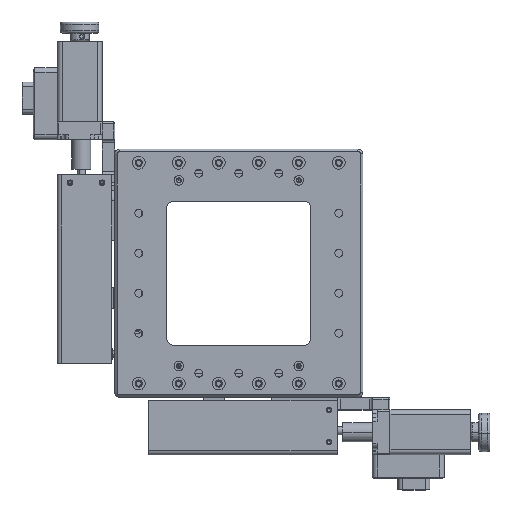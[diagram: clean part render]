
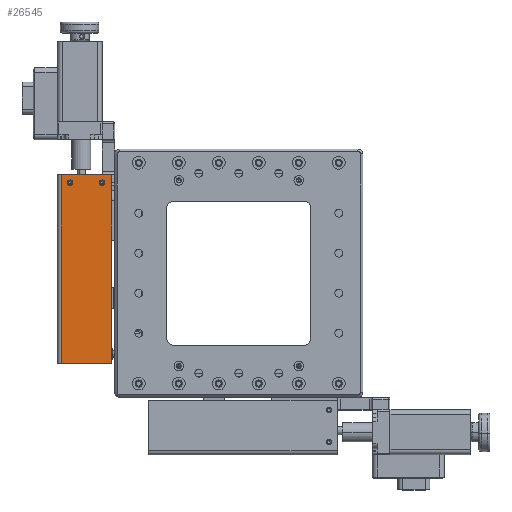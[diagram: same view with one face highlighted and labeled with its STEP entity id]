
A CAD part, top view. The second image highlights one B-rep face of the part: STEP entity #26545.
In plain terms, the highlighted planar face has unit normal (0, 0, 1) as drawn and (0, 1, 0) by its records, which use the part's own axes.
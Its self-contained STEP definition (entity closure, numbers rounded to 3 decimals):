
#50 = CARTESIAN_POINT ( 'NONE',  ( 54., 13.75, 28. ) ) ;
#1500 = CARTESIAN_POINT ( 'NONE',  ( 54., 13.75, 8. ) ) ;
#3315 = EDGE_CURVE ( 'NONE', #21586, #25396, #3622, .T. ) ;
#3352 = DIRECTION ( 'NONE',  ( 0., 0., 1. ) ) ;
#3622 = LINE ( 'NONE', #17752, #43169 ) ;
#3772 = VERTEX_POINT ( 'NONE', #25241 ) ;
#3843 = CARTESIAN_POINT ( 'NONE',  ( 54., 13.75, 29.75 ) ) ;
#4876 = CARTESIAN_POINT ( 'NONE',  ( -59., 13.75, 2.5 ) ) ;
#4904 = VECTOR ( 'NONE', #37900, 1000. ) ;
#5929 = ORIENTED_EDGE ( 'NONE', *, *, #30958, .F. ) ;
#6077 = AXIS2_PLACEMENT_3D ( 'NONE', #1500, #37586, #16357 ) ;
#6621 = AXIS2_PLACEMENT_3D ( 'NONE', #40539, #18364, #21539 ) ;
#7700 = ORIENTED_EDGE ( 'NONE', *, *, #35172, .T. ) ;
#7898 = CIRCLE ( 'NONE', #18009, 1.75 ) ;
#7954 = DIRECTION ( 'NONE',  ( 0., 1., 0. ) ) ;
#10685 = VERTEX_POINT ( 'NONE', #23669 ) ;
#11002 = DIRECTION ( 'NONE',  ( 0., 1., 0. ) ) ;
#11245 = DIRECTION ( 'NONE',  ( 0., 0., 1. ) ) ;
#11810 = EDGE_LOOP ( 'NONE', ( #39215, #7700, #21583, #18472 ) ) ;
#13454 = EDGE_CURVE ( 'NONE', #37735, #23166, #38655, .T. ) ;
#16118 = VERTEX_POINT ( 'NONE', #3843 ) ;
#16357 = DIRECTION ( 'NONE',  ( 0., 0., 1. ) ) ;
#17752 = CARTESIAN_POINT ( 'NONE',  ( -59., 13.75, 34. ) ) ;
#18009 = AXIS2_PLACEMENT_3D ( 'NONE', #41344, #7954, #30401 ) ;
#18121 = FACE_BOUND ( 'NONE', #27080, .T. ) ;
#18364 = DIRECTION ( 'NONE',  ( 0., -1., 0. ) ) ;
#18472 = ORIENTED_EDGE ( 'NONE', *, *, #3315, .F. ) ;
#19609 = EDGE_LOOP ( 'NONE', ( #30998, #5929 ) ) ;
#19715 = DIRECTION ( 'NONE',  ( -1., 0., 0. ) ) ;
#21113 = ORIENTED_EDGE ( 'NONE', *, *, #41951, .F. ) ;
#21195 = VECTOR ( 'NONE', #19715, 1000. ) ;
#21539 = DIRECTION ( 'NONE',  ( 0., 0., -1. ) ) ;
#21583 = ORIENTED_EDGE ( 'NONE', *, *, #34910, .F. ) ;
#21586 = VERTEX_POINT ( 'NONE', #43398 ) ;
#21703 = CIRCLE ( 'NONE', #28754, 1.75 ) ;
#21842 = CARTESIAN_POINT ( 'NONE',  ( 54., 13.75, 8. ) ) ;
#21968 = CARTESIAN_POINT ( 'NONE',  ( 59., 13.75, 34. ) ) ;
#22748 = LINE ( 'NONE', #37163, #4904 ) ;
#23166 = VERTEX_POINT ( 'NONE', #32850 ) ;
#23669 = CARTESIAN_POINT ( 'NONE',  ( 54., 13.75, 26.25 ) ) ;
#24900 = CARTESIAN_POINT ( 'NONE',  ( -59., 13.75, 34. ) ) ;
#25241 = CARTESIAN_POINT ( 'NONE',  ( -59., 13.75, 2.5 ) ) ;
#25396 = VERTEX_POINT ( 'NONE', #24900 ) ;
#25507 = CIRCLE ( 'NONE', #6077, 1.75 ) ;
#25920 = FACE_OUTER_BOUND ( 'NONE', #11810, .T. ) ;
#26545 = ADVANCED_FACE ( 'NONE', ( #18121, #29587, #25920 ), #29353, .F. ) ;
#27080 = EDGE_LOOP ( 'NONE', ( #41341, #21113 ) ) ;
#28754 = AXIS2_PLACEMENT_3D ( 'NONE', #50, #11002, #11245 ) ;
#29353 = PLANE ( 'NONE',  #6621 ) ;
#29587 = FACE_BOUND ( 'NONE', #19609, .T. ) ;
#29791 = LINE ( 'NONE', #21968, #46809 ) ;
#30059 = AXIS2_PLACEMENT_3D ( 'NONE', #21842, #34253, #3352 ) ;
#30357 = VERTEX_POINT ( 'NONE', #32310 ) ;
#30401 = DIRECTION ( 'NONE',  ( 0., 0., 1. ) ) ;
#30711 = LINE ( 'NONE', #4876, #21195 ) ;
#30958 = EDGE_CURVE ( 'NONE', #10685, #16118, #21703, .T. ) ;
#30998 = ORIENTED_EDGE ( 'NONE', *, *, #45528, .F. ) ;
#32310 = CARTESIAN_POINT ( 'NONE',  ( 59., 13.75, 2.5 ) ) ;
#32850 = CARTESIAN_POINT ( 'NONE',  ( 54., 13.75, 6.25 ) ) ;
#32880 = CARTESIAN_POINT ( 'NONE',  ( 54., 13.75, 9.75 ) ) ;
#34253 = DIRECTION ( 'NONE',  ( 0., 1., 0. ) ) ;
#34910 = EDGE_CURVE ( 'NONE', #25396, #3772, #22748, .T. ) ;
#35172 = EDGE_CURVE ( 'NONE', #30357, #3772, #30711, .T. ) ;
#37163 = CARTESIAN_POINT ( 'NONE',  ( -59., 13.75, 34. ) ) ;
#37586 = DIRECTION ( 'NONE',  ( 0., 1., 0. ) ) ;
#37735 = VERTEX_POINT ( 'NONE', #32880 ) ;
#37900 = DIRECTION ( 'NONE',  ( 0., 0., -1. ) ) ;
#38655 = CIRCLE ( 'NONE', #30059, 1.75 ) ;
#39215 = ORIENTED_EDGE ( 'NONE', *, *, #45222, .T. ) ;
#40539 = CARTESIAN_POINT ( 'NONE',  ( -59., 13.75, 34. ) ) ;
#41341 = ORIENTED_EDGE ( 'NONE', *, *, #13454, .F. ) ;
#41344 = CARTESIAN_POINT ( 'NONE',  ( 54., 13.75, 28. ) ) ;
#41477 = DIRECTION ( 'NONE',  ( 0., 0., -1. ) ) ;
#41951 = EDGE_CURVE ( 'NONE', #23166, #37735, #25507, .T. ) ;
#43169 = VECTOR ( 'NONE', #44805, 1000. ) ;
#43398 = CARTESIAN_POINT ( 'NONE',  ( 59., 13.75, 34. ) ) ;
#44805 = DIRECTION ( 'NONE',  ( -1., 0., 0. ) ) ;
#45222 = EDGE_CURVE ( 'NONE', #21586, #30357, #29791, .T. ) ;
#45528 = EDGE_CURVE ( 'NONE', #16118, #10685, #7898, .T. ) ;
#46809 = VECTOR ( 'NONE', #41477, 1000. ) ;
